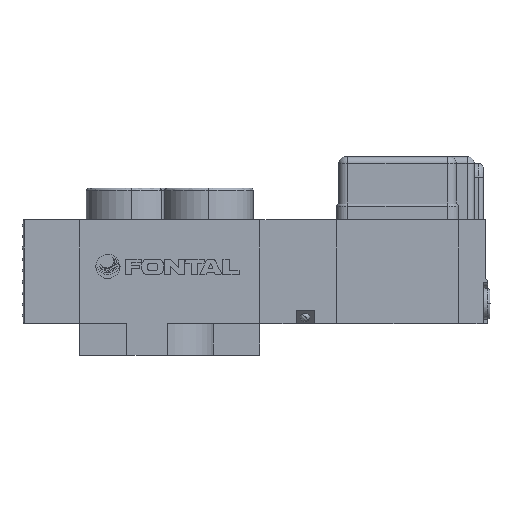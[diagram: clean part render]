
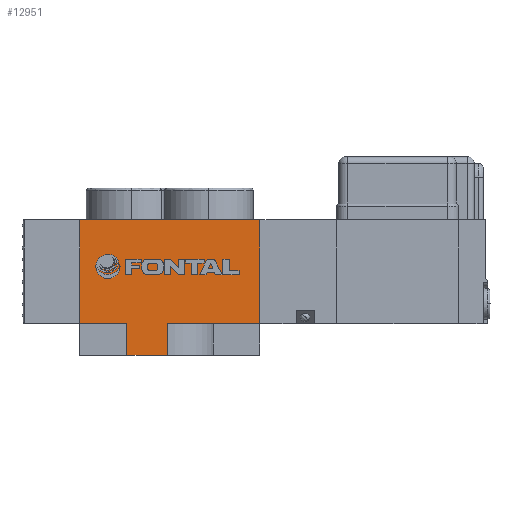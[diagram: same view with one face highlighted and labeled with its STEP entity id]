
A CAD part, top view. The second image highlights one B-rep face of the part: STEP entity #12951.
In plain terms, the highlighted planar face has unit normal (0, 0, 1).
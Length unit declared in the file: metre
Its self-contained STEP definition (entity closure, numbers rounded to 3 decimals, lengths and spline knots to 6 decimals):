
#17 = VERTEX_POINT ( 'NONE', #12638 ) ;
#139 = LINE ( 'NONE', #12246, #12923 ) ;
#562 = LINE ( 'NONE', #1188, #6818 ) ;
#807 = CARTESIAN_POINT ( 'NONE',  ( -0.0005, 0.0145, 0.0135 ) ) ;
#876 = LINE ( 'NONE', #2048, #3805 ) ;
#1188 = CARTESIAN_POINT ( 'NONE',  ( 0., 0.0215, 0.0135 ) ) ;
#1522 = CARTESIAN_POINT ( 'NONE',  ( -0.0005, 0.018, 0.0135 ) ) ;
#1602 = EDGE_CURVE ( 'NONE', #7930, #12238, #6212, .T. ) ;
#1624 = ORIENTED_EDGE ( 'NONE', *, *, #16016, .T. ) ;
#2048 = CARTESIAN_POINT ( 'NONE',  ( 0.02, 0.0295, 0.0135 ) ) ;
#2330 = VERTEX_POINT ( 'NONE', #9633 ) ;
#2399 = VERTEX_POINT ( 'NONE', #14700 ) ;
#2438 = EDGE_CURVE ( 'NONE', #9523, #17, #139, .T. ) ;
#2746 = DIRECTION ( 'NONE',  ( 0., 1., 0. ) ) ;
#3038 = VECTOR ( 'NONE', #15256, 1. ) ;
#3070 = LINE ( 'NONE', #10786, #9261 ) ;
#3160 = DIRECTION ( 'NONE',  ( -1., 0., 0. ) ) ;
#3572 = EDGE_CURVE ( 'NONE', #17, #4919, #3070, .T. ) ;
#3805 = VECTOR ( 'NONE', #2746, 1. ) ;
#4104 = EDGE_CURVE ( 'NONE', #2399, #9523, #876, .T. ) ;
#4771 = AXIS2_PLACEMENT_3D ( 'NONE', #12659, #12714, #5356 ) ;
#4919 = VERTEX_POINT ( 'NONE', #7189 ) ;
#5180 = ORIENTED_EDGE ( 'NONE', *, *, #2438, .T. ) ;
#5304 = PLANE ( 'NONE',  #4771 ) ;
#5356 = DIRECTION ( 'NONE',  ( -1., 0., 0. ) ) ;
#5773 = EDGE_LOOP ( 'NONE', ( #14007, #1624, #14821, #11923, #11944, #5180, #10785, #11990 ) ) ;
#5929 = LINE ( 'NONE', #6849, #15390 ) ;
#6212 = LINE ( 'NONE', #1522, #6614 ) ;
#6340 = CARTESIAN_POINT ( 'NONE',  ( 0.02, 0.0445, 0.0135 ) ) ;
#6474 = DIRECTION ( 'NONE',  ( 1., 0., 0. ) ) ;
#6614 = VECTOR ( 'NONE', #11434, 1. ) ;
#6818 = VECTOR ( 'NONE', #16052, 1. ) ;
#6849 = CARTESIAN_POINT ( 'NONE',  ( 0., 0.0215, 0.0135 ) ) ;
#7189 = CARTESIAN_POINT ( 'NONE',  ( -0.02, 0.0215, 0.0135 ) ) ;
#7930 = VERTEX_POINT ( 'NONE', #807 ) ;
#8608 = DIRECTION ( 'NONE',  ( -1., 0., 0. ) ) ;
#8891 = CARTESIAN_POINT ( 'NONE',  ( -0.0095, 0.0215, 0.0135 ) ) ;
#9261 = VECTOR ( 'NONE', #11031, 1. ) ;
#9337 = FACE_OUTER_BOUND ( 'NONE', #5773, .T. ) ;
#9523 = VERTEX_POINT ( 'NONE', #6340 ) ;
#9633 = CARTESIAN_POINT ( 'NONE',  ( -0.0095, 0.0145, 0.0135 ) ) ;
#10021 = CARTESIAN_POINT ( 'NONE',  ( -0.0005, 0.0215, 0.0135 ) ) ;
#10785 = ORIENTED_EDGE ( 'NONE', *, *, #3572, .T. ) ;
#10786 = CARTESIAN_POINT ( 'NONE',  ( -0.02, 0.0295, 0.0135 ) ) ;
#10858 = VERTEX_POINT ( 'NONE', #8891 ) ;
#11031 = DIRECTION ( 'NONE',  ( 0., -1., 0. ) ) ;
#11366 = CARTESIAN_POINT ( 'NONE',  ( 0., 0.0145, 0.0135 ) ) ;
#11434 = DIRECTION ( 'NONE',  ( 0., 1., 0. ) ) ;
#11574 = LINE ( 'NONE', #11366, #14077 ) ;
#11864 = EDGE_CURVE ( 'NONE', #2330, #10858, #15808, .T. ) ;
#11923 = ORIENTED_EDGE ( 'NONE', *, *, #13402, .F. ) ;
#11944 = ORIENTED_EDGE ( 'NONE', *, *, #4104, .T. ) ;
#11990 = ORIENTED_EDGE ( 'NONE', *, *, #12466, .F. ) ;
#12238 = VERTEX_POINT ( 'NONE', #10021 ) ;
#12246 = CARTESIAN_POINT ( 'NONE',  ( 0., 0.0445, 0.0135 ) ) ;
#12466 = EDGE_CURVE ( 'NONE', #10858, #4919, #5929, .T. ) ;
#12638 = CARTESIAN_POINT ( 'NONE',  ( -0.02, 0.0445, 0.0135 ) ) ;
#12659 = CARTESIAN_POINT ( 'NONE',  ( 0.02, 0.0145, 0.0135 ) ) ;
#12714 = DIRECTION ( 'NONE',  ( 0., 0., -1. ) ) ;
#12737 = CARTESIAN_POINT ( 'NONE',  ( -0.0095, 0.0295, 0.0135 ) ) ;
#12923 = VECTOR ( 'NONE', #8608, 1. ) ;
#12951 = ADVANCED_FACE ( 'NONE', ( #9337 ), #5304, .F. ) ;
#13402 = EDGE_CURVE ( 'NONE', #2399, #12238, #562, .T. ) ;
#14007 = ORIENTED_EDGE ( 'NONE', *, *, #11864, .F. ) ;
#14077 = VECTOR ( 'NONE', #6474, 1. ) ;
#14700 = CARTESIAN_POINT ( 'NONE',  ( 0.02, 0.0215, 0.0135 ) ) ;
#14821 = ORIENTED_EDGE ( 'NONE', *, *, #1602, .T. ) ;
#15256 = DIRECTION ( 'NONE',  ( 0., 1., 0. ) ) ;
#15390 = VECTOR ( 'NONE', #3160, 1. ) ;
#15808 = LINE ( 'NONE', #12737, #3038 ) ;
#16016 = EDGE_CURVE ( 'NONE', #2330, #7930, #11574, .T. ) ;
#16052 = DIRECTION ( 'NONE',  ( -1., 0., 0. ) ) ;
